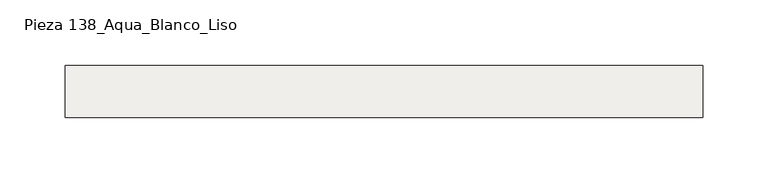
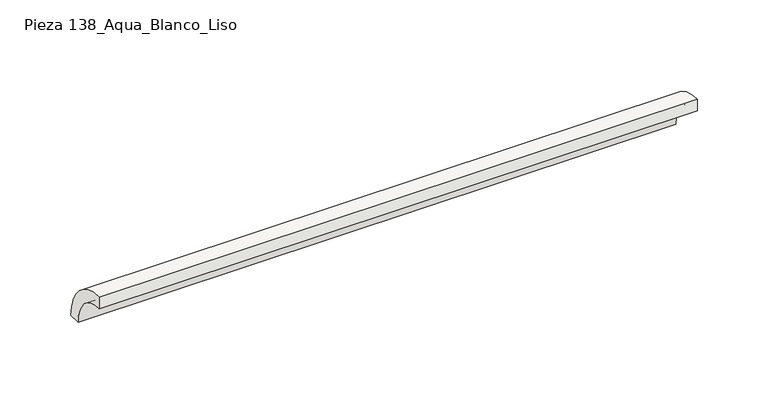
"""IFC4 building model written with IfcOpenShell, lengths in millimetres: slab geometry, ROSA GRES_138 : Pieza 138_Aqua_Blanco_Liso."""

from ifc_helpers import new_model, si_unit, point, frame, frame_2d, origin, origin_2d, place, context, project, spatial, polyline, circle_curve, trimmed, segment, composite_curve, outline, extrude, source, transform, mapped, element, save


def pieza_138_aqua_blanco_liso_b3acbe6b(model_context):
    return source(origin(), model_context, "Body", "SweptSolid", [
        extrude(outline(composite_curve([segment(trimmed(circle_curve(origin_2d(), 40.0), [point((0.0, 40.0))], [point((40.0, 0.0))], False, "CARTESIAN"), True, "CONTINUOUS"), segment(polyline([(40.0, 0.0), (30.0265886, 0.0)]), True, "CONTINUOUS"), segment(trimmed(circle_curve(frame_2d((0.0044453, 0.0044453)), 30.0221435), [point((30.0265886, 0.0))], [point((0.0, 30.0265886))], True, "CARTESIAN"), True, "CONTINUOUS"), segment(polyline([(0.0, 30.0265886), (0.0, 40.0)]), True, "CONTINUOUS")], self_intersect=False)), frame((0.0, 0.0, 0.0), z_axis=(1.0, 0.0, 0.0), x_axis=(0.0, 1.0, 0.0)), (0.0, 0.0, 1.0), 486.3166914),
    ])


if __name__ == "__main__":
    model = new_model("IFC4")
    model_context = context("Model", 3, world=origin())
    ifc_project = project(units=[si_unit("LENGTHUNIT", "METRE", prefix="MILLI")], contexts=[model_context])
    site = spatial("IfcSite", under=ifc_project)
    building = spatial("IfcBuilding", under=site)
    placement = place(None, origin())
    pieza_138_aqua_blanco_liso_shape = pieza_138_aqua_blanco_liso_b3acbe6b(model_context)
    element("IfcSlab", 1, ObjectType="ROSA GRES_138 : Pieza 138_Aqua_Blanco_Liso", at=placement, inside=building, context=model_context, shape_type="MappedRepresentation", body=[
        mapped(pieza_138_aqua_blanco_liso_shape, transform((0.0, 0.0, 0.0), x_axis=(1.0, 0.0, 0.0), y_axis=(0.0, 1.0, 0.0), z_axis=(0.0, 0.0, 1.0))),
    ])
    save(model, "model.ifc")
